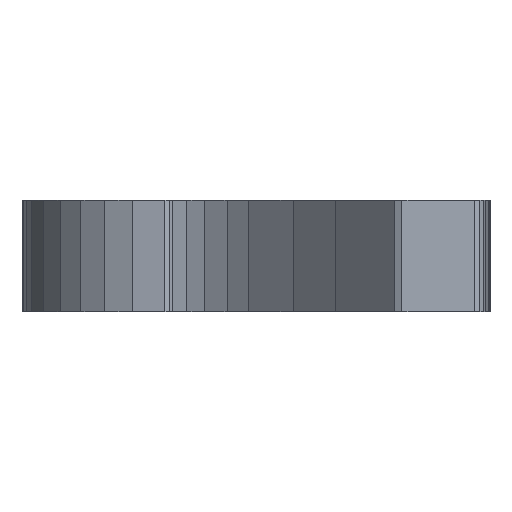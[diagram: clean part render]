
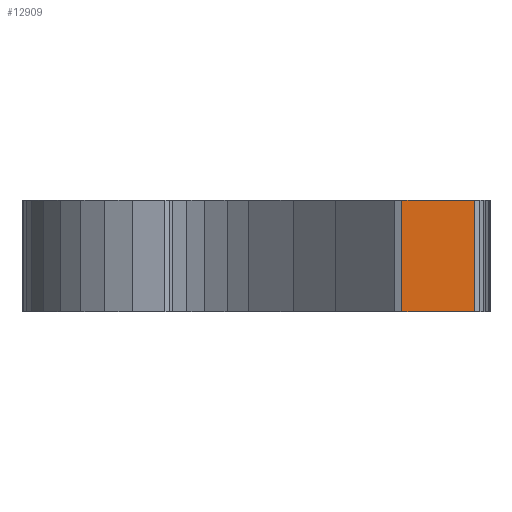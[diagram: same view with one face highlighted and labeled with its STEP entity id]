
A CAD part, left-side view. The second image highlights one B-rep face of the part: STEP entity #12909.
In plain terms, the highlighted planar face has unit normal (-1, 0, 0).
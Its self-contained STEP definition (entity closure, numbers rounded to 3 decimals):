
#8010 = EDGE_CURVE('',#8011,#8013,#8015,.T.);
#8011 = VERTEX_POINT('',#8012);
#8012 = CARTESIAN_POINT('',(18.315,2.2,14.4));
#8013 = VERTEX_POINT('',#8014);
#8014 = CARTESIAN_POINT('',(18.315,2.2,15.01));
#8015 = SURFACE_CURVE('',#8016,(#8020,#8032),.PCURVE_S1.);
#8016 = LINE('',#8017,#8018);
#8017 = CARTESIAN_POINT('',(18.315,2.2,14.4));
#8018 = VECTOR('',#8019,1.);
#8019 = DIRECTION('',(-0.,-0.,1.));
#8020 = PCURVE('',#8021,#8026);
#8021 = PLANE('',#8022);
#8022 = AXIS2_PLACEMENT_3D('',#8023,#8024,#8025);
#8023 = CARTESIAN_POINT('',(18.315,2.2,14.4));
#8024 = DIRECTION('',(0.904,-0.428,-0.));
#8025 = DIRECTION('',(-0.428,-0.904,0.));
#8026 = DEFINITIONAL_REPRESENTATION('',(#8027),#8031);
#8027 = LINE('',#8028,#8029);
#8028 = CARTESIAN_POINT('',(-0.,0.));
#8029 = VECTOR('',#8030,1.);
#8030 = DIRECTION('',(-0.,-1.));
#8031 = ( GEOMETRIC_REPRESENTATION_CONTEXT(2) 
PARAMETRIC_REPRESENTATION_CONTEXT() REPRESENTATION_CONTEXT('2D SPACE',''
  ) );
#8032 = PCURVE('',#8033,#8038);
#8033 = PLANE('',#8034);
#8034 = AXIS2_PLACEMENT_3D('',#8035,#8036,#8037);
#8035 = CARTESIAN_POINT('',(18.315,1.8,14.4));
#8036 = DIRECTION('',(1.,-0.,-0.));
#8037 = DIRECTION('',(0.,-1.,0.));
#8038 = DEFINITIONAL_REPRESENTATION('',(#8039),#8043);
#8039 = LINE('',#8040,#8041);
#8040 = CARTESIAN_POINT('',(-0.4,0.));
#8041 = VECTOR('',#8042,1.);
#8042 = DIRECTION('',(-0.,-1.));
#8043 = ( GEOMETRIC_REPRESENTATION_CONTEXT(2) 
PARAMETRIC_REPRESENTATION_CONTEXT() REPRESENTATION_CONTEXT('2D SPACE',''
  ) );
#8061 = PLANE('',#8062);
#8062 = AXIS2_PLACEMENT_3D('',#8063,#8064,#8065);
#8063 = CARTESIAN_POINT('',(19.262,2.926,15.01));
#8064 = DIRECTION('',(-0.,-0.,1.));
#8065 = DIRECTION('',(-1.,0.,0.));
#8115 = PLANE('',#8116);
#8116 = AXIS2_PLACEMENT_3D('',#8117,#8118,#8119);
#8117 = CARTESIAN_POINT('',(19.262,2.926,14.4));
#8118 = DIRECTION('',(-0.,-0.,1.));
#8119 = DIRECTION('',(-1.,0.,0.));
#12806 = PLANE('',#12807);
#12807 = AXIS2_PLACEMENT_3D('',#12808,#12809,#12810);
#12808 = CARTESIAN_POINT('',(18.323,1.772,14.4));
#12809 = DIRECTION('',(0.957,0.29,-0.));
#12810 = DIRECTION('',(0.29,-0.957,-0.));
#12844 = VERTEX_POINT('',#12845);
#12845 = CARTESIAN_POINT('',(18.315,1.8,15.01));
#12866 = EDGE_CURVE('',#12867,#12844,#12869,.T.);
#12867 = VERTEX_POINT('',#12868);
#12868 = CARTESIAN_POINT('',(18.315,1.8,14.4));
#12869 = SURFACE_CURVE('',#12870,(#12874,#12881),.PCURVE_S1.);
#12870 = LINE('',#12871,#12872);
#12871 = CARTESIAN_POINT('',(18.315,1.8,14.4));
#12872 = VECTOR('',#12873,1.);
#12873 = DIRECTION('',(-0.,-0.,1.));
#12874 = PCURVE('',#12806,#12875);
#12875 = DEFINITIONAL_REPRESENTATION('',(#12876),#12880);
#12876 = LINE('',#12877,#12878);
#12877 = CARTESIAN_POINT('',(-0.029,-0.));
#12878 = VECTOR('',#12879,1.);
#12879 = DIRECTION('',(-0.,-1.));
#12880 = ( GEOMETRIC_REPRESENTATION_CONTEXT(2) 
PARAMETRIC_REPRESENTATION_CONTEXT() REPRESENTATION_CONTEXT('2D SPACE',''
  ) );
#12881 = PCURVE('',#8033,#12882);
#12882 = DEFINITIONAL_REPRESENTATION('',(#12883),#12887);
#12883 = LINE('',#12884,#12885);
#12884 = CARTESIAN_POINT('',(-0.,0.));
#12885 = VECTOR('',#12886,1.);
#12886 = DIRECTION('',(-0.,-1.));
#12887 = ( GEOMETRIC_REPRESENTATION_CONTEXT(2) 
PARAMETRIC_REPRESENTATION_CONTEXT() REPRESENTATION_CONTEXT('2D SPACE',''
  ) );
#12909 = ADVANCED_FACE('',(#12910),#8033,.F.);
#12910 = FACE_BOUND('',#12911,.T.);
#12911 = EDGE_LOOP('',(#12912,#12913,#12934,#12935));
#12912 = ORIENTED_EDGE('',*,*,#12866,.T.);
#12913 = ORIENTED_EDGE('',*,*,#12914,.T.);
#12914 = EDGE_CURVE('',#12844,#8013,#12915,.T.);
#12915 = SURFACE_CURVE('',#12916,(#12920,#12927),.PCURVE_S1.);
#12916 = LINE('',#12917,#12918);
#12917 = CARTESIAN_POINT('',(18.315,1.8,15.01));
#12918 = VECTOR('',#12919,1.);
#12919 = DIRECTION('',(-0.,1.,-0.));
#12920 = PCURVE('',#8033,#12921);
#12921 = DEFINITIONAL_REPRESENTATION('',(#12922),#12926);
#12922 = LINE('',#12923,#12924);
#12923 = CARTESIAN_POINT('',(-0.,-0.61));
#12924 = VECTOR('',#12925,1.);
#12925 = DIRECTION('',(-1.,-0.));
#12926 = ( GEOMETRIC_REPRESENTATION_CONTEXT(2) 
PARAMETRIC_REPRESENTATION_CONTEXT() REPRESENTATION_CONTEXT('2D SPACE',''
  ) );
#12927 = PCURVE('',#8061,#12928);
#12928 = DEFINITIONAL_REPRESENTATION('',(#12929),#12933);
#12929 = LINE('',#12930,#12931);
#12930 = CARTESIAN_POINT('',(0.947,1.126));
#12931 = VECTOR('',#12932,1.);
#12932 = DIRECTION('',(-0.,-1.));
#12933 = ( GEOMETRIC_REPRESENTATION_CONTEXT(2) 
PARAMETRIC_REPRESENTATION_CONTEXT() REPRESENTATION_CONTEXT('2D SPACE',''
  ) );
#12934 = ORIENTED_EDGE('',*,*,#8010,.F.);
#12935 = ORIENTED_EDGE('',*,*,#12936,.F.);
#12936 = EDGE_CURVE('',#12867,#8011,#12937,.T.);
#12937 = SURFACE_CURVE('',#12938,(#12942,#12949),.PCURVE_S1.);
#12938 = LINE('',#12939,#12940);
#12939 = CARTESIAN_POINT('',(18.315,1.8,14.4));
#12940 = VECTOR('',#12941,1.);
#12941 = DIRECTION('',(-0.,1.,-0.));
#12942 = PCURVE('',#8033,#12943);
#12943 = DEFINITIONAL_REPRESENTATION('',(#12944),#12948);
#12944 = LINE('',#12945,#12946);
#12945 = CARTESIAN_POINT('',(-0.,0.));
#12946 = VECTOR('',#12947,1.);
#12947 = DIRECTION('',(-1.,-0.));
#12948 = ( GEOMETRIC_REPRESENTATION_CONTEXT(2) 
PARAMETRIC_REPRESENTATION_CONTEXT() REPRESENTATION_CONTEXT('2D SPACE',''
  ) );
#12949 = PCURVE('',#8115,#12950);
#12950 = DEFINITIONAL_REPRESENTATION('',(#12951),#12955);
#12951 = LINE('',#12952,#12953);
#12952 = CARTESIAN_POINT('',(0.947,1.126));
#12953 = VECTOR('',#12954,1.);
#12954 = DIRECTION('',(-0.,-1.));
#12955 = ( GEOMETRIC_REPRESENTATION_CONTEXT(2) 
PARAMETRIC_REPRESENTATION_CONTEXT() REPRESENTATION_CONTEXT('2D SPACE',''
  ) );
